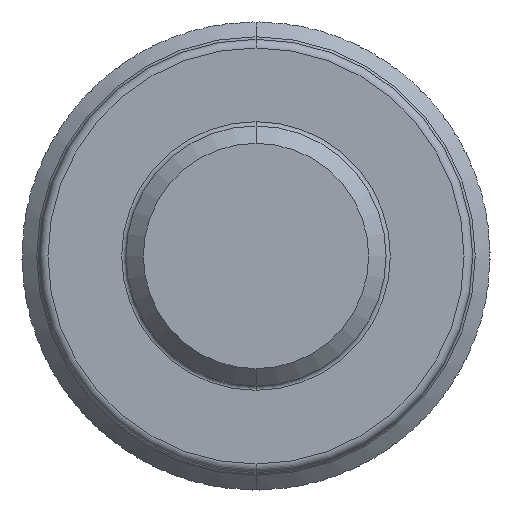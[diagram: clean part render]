
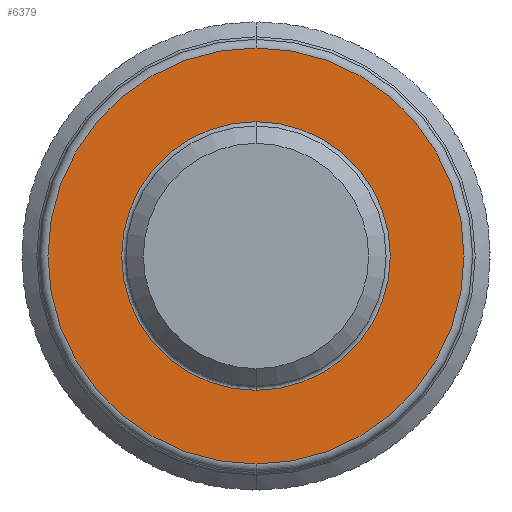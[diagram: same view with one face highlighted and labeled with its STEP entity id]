
A CAD part, front view. The second image highlights one B-rep face of the part: STEP entity #6379.
In plain terms, the highlighted planar face has unit normal (0, -1, 0).
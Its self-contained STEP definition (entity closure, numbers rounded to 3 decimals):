
#378 = CARTESIAN_POINT ( 'NONE',  ( 0., -3., 2.4 ) ) ;
#609 = CIRCLE ( 'NONE', #1412, 2.4 ) ;
#642 = DIRECTION ( 'NONE',  ( 0., 0., -1. ) ) ;
#821 = CARTESIAN_POINT ( 'NONE',  ( 0., -3., 0. ) ) ;
#1324 = EDGE_LOOP ( 'NONE', ( #3268, #3446 ) ) ;
#1412 = AXIS2_PLACEMENT_3D ( 'NONE', #4855, #6275, #2369 ) ;
#1461 = CARTESIAN_POINT ( 'NONE',  ( 0., -3., 0. ) ) ;
#1573 = DIRECTION ( 'NONE',  ( 0., 0., -1. ) ) ;
#1645 = ORIENTED_EDGE ( 'NONE', *, *, #5909, .T. ) ;
#1718 = AXIS2_PLACEMENT_3D ( 'NONE', #821, #5404, #3076 ) ;
#2369 = DIRECTION ( 'NONE',  ( 0., 0., -1. ) ) ;
#2997 = AXIS2_PLACEMENT_3D ( 'NONE', #6989, #7906, #1573 ) ;
#3076 = DIRECTION ( 'NONE',  ( 0., 0., -1. ) ) ;
#3268 = ORIENTED_EDGE ( 'NONE', *, *, #8307, .T. ) ;
#3446 = ORIENTED_EDGE ( 'NONE', *, *, #7492, .T. ) ;
#3707 = DIRECTION ( 'NONE',  ( 0., 1., 0. ) ) ;
#3754 = CARTESIAN_POINT ( 'NONE',  ( 0., -3., 0. ) ) ;
#4855 = CARTESIAN_POINT ( 'NONE',  ( 0., -3., 0. ) ) ;
#5211 = CARTESIAN_POINT ( 'NONE',  ( 0., -3., 1.55 ) ) ;
#5346 = DIRECTION ( 'NONE',  ( 0., 0., -1. ) ) ;
#5404 = DIRECTION ( 'NONE',  ( 0., 1., 0. ) ) ;
#5485 = AXIS2_PLACEMENT_3D ( 'NONE', #1461, #7636, #5346 ) ;
#5544 = CARTESIAN_POINT ( 'NONE',  ( 0., -3., -2.4 ) ) ;
#5583 = AXIS2_PLACEMENT_3D ( 'NONE', #3754, #3707, #642 ) ;
#5847 = VERTEX_POINT ( 'NONE', #378 ) ;
#5909 = EDGE_CURVE ( 'NONE', #7974, #9618, #7055, .T. ) ;
#5926 = FACE_BOUND ( 'NONE', #9605, .T. ) ;
#6275 = DIRECTION ( 'NONE',  ( 0., -1., 0. ) ) ;
#6379 = ADVANCED_FACE ( 'NONE', ( #5926, #9027 ), #9371, .T. ) ;
#6390 = ORIENTED_EDGE ( 'NONE', *, *, #6394, .T. ) ;
#6394 = EDGE_CURVE ( 'NONE', #9618, #7974, #7375, .T. ) ;
#6624 = CIRCLE ( 'NONE', #5485, 2.4 ) ;
#6989 = CARTESIAN_POINT ( 'NONE',  ( 1.5, -3., 0. ) ) ;
#7055 = CIRCLE ( 'NONE', #5583, 1.55 ) ;
#7375 = CIRCLE ( 'NONE', #1718, 1.55 ) ;
#7492 = EDGE_CURVE ( 'NONE', #5847, #7881, #609, .T. ) ;
#7636 = DIRECTION ( 'NONE',  ( 0., -1., 0. ) ) ;
#7784 = CARTESIAN_POINT ( 'NONE',  ( 0., -3., -1.55 ) ) ;
#7881 = VERTEX_POINT ( 'NONE', #5544 ) ;
#7906 = DIRECTION ( 'NONE',  ( 0., -1., 0. ) ) ;
#7974 = VERTEX_POINT ( 'NONE', #7784 ) ;
#8307 = EDGE_CURVE ( 'NONE', #7881, #5847, #6624, .T. ) ;
#9027 = FACE_OUTER_BOUND ( 'NONE', #1324, .T. ) ;
#9371 = PLANE ( 'NONE',  #2997 ) ;
#9605 = EDGE_LOOP ( 'NONE', ( #1645, #6390 ) ) ;
#9618 = VERTEX_POINT ( 'NONE', #5211 ) ;
